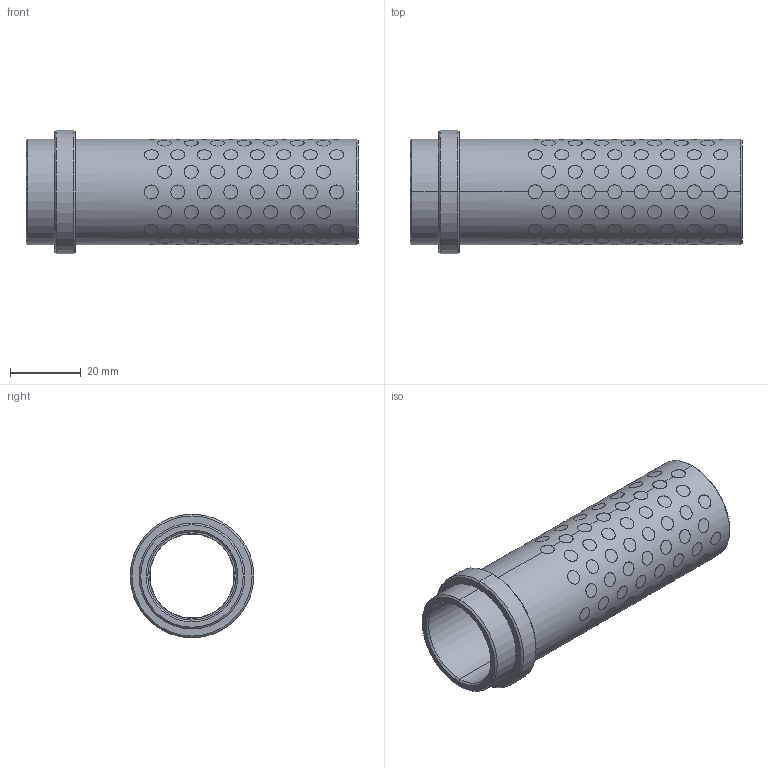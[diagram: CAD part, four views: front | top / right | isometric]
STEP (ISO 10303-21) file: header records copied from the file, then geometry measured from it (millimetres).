
FILE_DESCRIPTION((''),'2;1');
FILE_NAME('G31224086','2017-12-30T',('MANU'),(''),'PRO/ENGINEER BY PARAMETRIC TECHNOLOGY CORPORATION, 2012130','PRO/ENGINEER BY PARAMETRIC TECHNOLOGY CORPORATION, 2012130','');
FILE_SCHEMA(('CONFIG_CONTROL_DESIGN'));
Length unit declared in the file: millimetre
Products named in the file (1): G31224086
Bounding box: 94 x 35 x 35 mm (x, y, z)
Volume: 24075.6 mm3; surface area: 25958.3 mm2
Topology: 121 solids, 121 shells, 747 faces, 1590 edges, 1056 vertices
Faces by surface type: cylinder 730, cone 12, plane 5
Entity records: 36056 total; most frequent: CARTESIAN_POINT 21535, ORIENTED_EDGE 3180, DIRECTION 2092, EDGE_CURVE 1590, VERTEX_POINT 1056, B_SPLINE_CURVE_WITH_KNOTS 1024, EDGE_LOOP 960, AXIS2_PLACEMENT_3D 779
